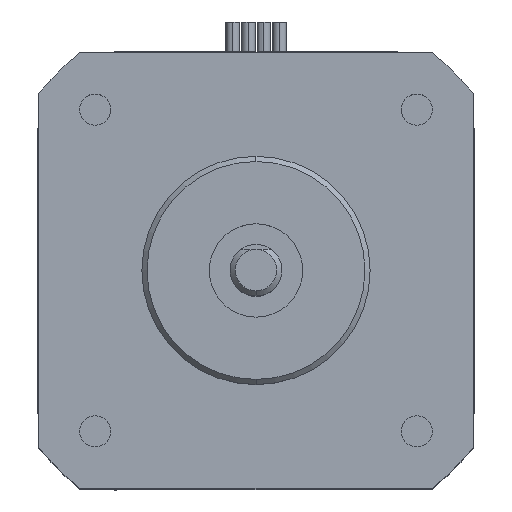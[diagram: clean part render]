
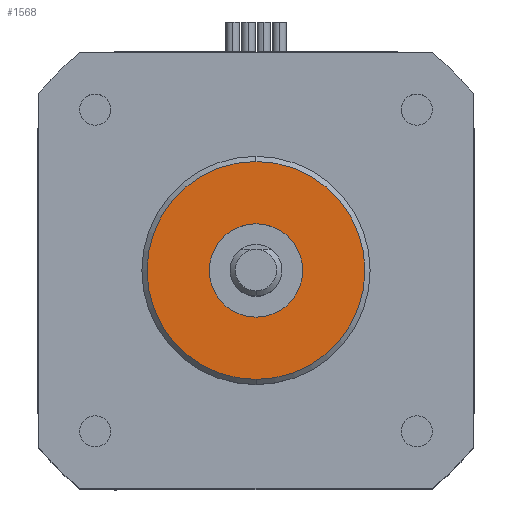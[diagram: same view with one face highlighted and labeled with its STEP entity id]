
A CAD part, top view. The second image highlights one B-rep face of the part: STEP entity #1568.
In plain terms, the highlighted planar face has unit normal (0, 0, 1).
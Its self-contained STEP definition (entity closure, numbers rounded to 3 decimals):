
#115 = DIRECTION ( 'NONE',  ( 0., 0., -1. ) ) ;
#754 = CARTESIAN_POINT ( 'NONE',  ( 0., 0., 30.9 ) ) ;
#1379 = CIRCLE ( 'NONE', #9666, 4.5 ) ;
#1568 = ADVANCED_FACE ( 'NONE', ( #12707, #30969 ), #11364, .T. ) ;
#2730 = CIRCLE ( 'NONE', #4073, 4.5 ) ;
#2768 = DIRECTION ( 'NONE',  ( 0., 0., -1. ) ) ;
#3227 = DIRECTION ( 'NONE',  ( 1., 0., 0. ) ) ;
#3244 = CARTESIAN_POINT ( 'NONE',  ( 0., 0., 30.9 ) ) ;
#4073 = AXIS2_PLACEMENT_3D ( 'NONE', #14677, #115, #17025 ) ;
#4418 = CARTESIAN_POINT ( 'NONE',  ( 10.5, 0., 30.9 ) ) ;
#4446 = ORIENTED_EDGE ( 'NONE', *, *, #23471, .T. ) ;
#5656 = DIRECTION ( 'NONE',  ( 1., 0., 0. ) ) ;
#6256 = CIRCLE ( 'NONE', #13447, 10.5 ) ;
#6709 = ORIENTED_EDGE ( 'NONE', *, *, #19824, .T. ) ;
#7791 = VERTEX_POINT ( 'NONE', #27075 ) ;
#9666 = AXIS2_PLACEMENT_3D ( 'NONE', #17217, #2768, #19641 ) ;
#10097 = AXIS2_PLACEMENT_3D ( 'NONE', #754, #17689, #3227 ) ;
#10294 = VERTEX_POINT ( 'NONE', #4418 ) ;
#10934 = ORIENTED_EDGE ( 'NONE', *, *, #14959, .T. ) ;
#11364 = PLANE ( 'NONE',  #25119 ) ;
#11682 = DIRECTION ( 'NONE',  ( 0., 0., 1. ) ) ;
#11784 = CARTESIAN_POINT ( 'NONE',  ( 0., 0., 30.9 ) ) ;
#12707 = FACE_OUTER_BOUND ( 'NONE', #26763, .T. ) ;
#13447 = AXIS2_PLACEMENT_3D ( 'NONE', #3244, #20120, #5656 ) ;
#14677 = CARTESIAN_POINT ( 'NONE',  ( 0., 0., 30.9 ) ) ;
#14959 = EDGE_CURVE ( 'NONE', #15737, #30522, #2730, .T. ) ;
#15532 = EDGE_LOOP ( 'NONE', ( #10934, #30925 ) ) ;
#15737 = VERTEX_POINT ( 'NONE', #16295 ) ;
#16295 = CARTESIAN_POINT ( 'NONE',  ( 4.5, 0., 30.9 ) ) ;
#16566 = EDGE_CURVE ( 'NONE', #30522, #15737, #1379, .T. ) ;
#16746 = DIRECTION ( 'NONE',  ( 1., 0., 0. ) ) ;
#17025 = DIRECTION ( 'NONE',  ( 1., 0., 0. ) ) ;
#17217 = CARTESIAN_POINT ( 'NONE',  ( 0., 0., 30.9 ) ) ;
#17689 = DIRECTION ( 'NONE',  ( 0., 0., 1. ) ) ;
#19373 = CARTESIAN_POINT ( 'NONE',  ( -4.5, 0., 30.9 ) ) ;
#19641 = DIRECTION ( 'NONE',  ( 1., 0., 0. ) ) ;
#19824 = EDGE_CURVE ( 'NONE', #7791, #10294, #6256, .T. ) ;
#20120 = DIRECTION ( 'NONE',  ( 0., 0., 1. ) ) ;
#23471 = EDGE_CURVE ( 'NONE', #10294, #7791, #24905, .T. ) ;
#24905 = CIRCLE ( 'NONE', #10097, 10.5 ) ;
#25119 = AXIS2_PLACEMENT_3D ( 'NONE', #11784, #11682, #16746 ) ;
#26763 = EDGE_LOOP ( 'NONE', ( #6709, #4446 ) ) ;
#27075 = CARTESIAN_POINT ( 'NONE',  ( -10.5, 0., 30.9 ) ) ;
#30522 = VERTEX_POINT ( 'NONE', #19373 ) ;
#30925 = ORIENTED_EDGE ( 'NONE', *, *, #16566, .T. ) ;
#30969 = FACE_BOUND ( 'NONE', #15532, .T. ) ;
